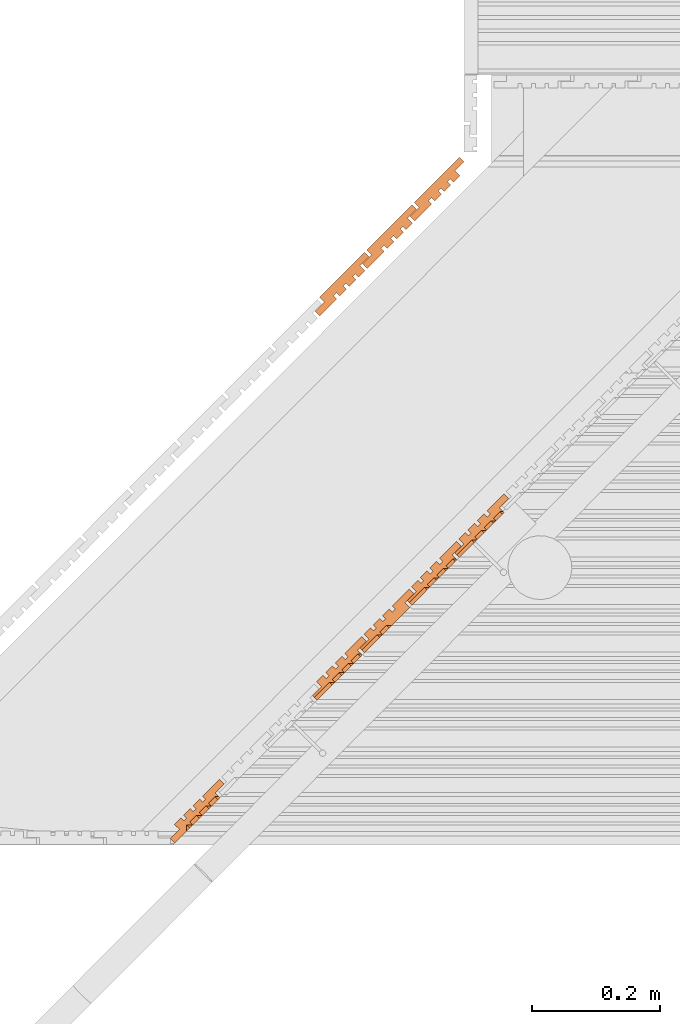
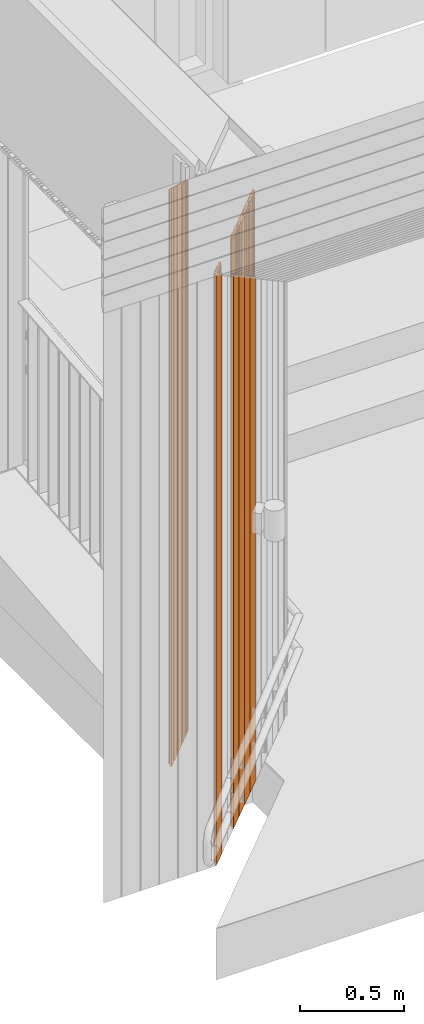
# One storey, part 383 of 418: 8 proxies.
"""IFC2X3 building model written with IfcOpenShell, lengths in millimetres."""

from ifc_helpers import new_model, entity, si_unit, converted_unit, derived_unit, money_unit, direction, frame, origin_with_axes, place, context, subcontext, project, spatial, polyline, outline, extrude, boolean, faceted_brep, material, type_object, element, save


model = new_model("IFC2X3")

# Units and contexts
model_context = context("Model", 3, precision=0.01, world=origin_with_axes(), true_north=direction((0.0, 1.0)))
body_context = subcontext(model_context, "Body", "Model", "MODEL_VIEW")
ifc_project = project(units=[si_unit("LENGTHUNIT", "METRE", prefix="MILLI"), si_unit("AREAUNIT", "SQUARE_METRE"), si_unit("VOLUMEUNIT", "CUBIC_METRE"), converted_unit("PLANEANGLEUNIT", "DEGREE", entity("IfcPlaneAngleMeasure", 0.0174532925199), si_unit("PLANEANGLEUNIT", "RADIAN"), dimensions=[0, 0, 0, 0, 0, 0, 0]), si_unit("SOLIDANGLEUNIT", "STERADIAN"), money_unit("EUR"), converted_unit("TIMEUNIT", "Year", entity("IfcTimeMeasure", 31556926.0), si_unit("TIMEUNIT", "SECOND"), dimensions=[0, 0, 1, 0, 0, 0, 0]), si_unit("MASSUNIT", "GRAM", prefix="KILO"), si_unit("THERMODYNAMICTEMPERATUREUNIT", "DEGREE_CELSIUS"), si_unit("LUMINOUSINTENSITYUNIT", "LUMEN"), si_unit("ENERGYUNIT", "JOULE", prefix="MEGA"), derived_unit("THERMALCONDUCTANCEUNIT", [(si_unit("POWERUNIT", "WATT"), 1), (si_unit("LENGTHUNIT", "METRE"), -1), (si_unit("THERMODYNAMICTEMPERATUREUNIT", "KELVIN"), -1)]), derived_unit("SPECIFICHEATCAPACITYUNIT", [(si_unit("ENERGYUNIT", "JOULE"), 1), (si_unit("MASSUNIT", "GRAM", prefix="KILO"), -1), (si_unit("THERMODYNAMICTEMPERATUREUNIT", "KELVIN"), -1)]), derived_unit("MASSDENSITYUNIT", [(si_unit("MASSUNIT", "GRAM", prefix="KILO"), 1), (si_unit("VOLUMEUNIT", "CUBIC_METRE"), -1)])], contexts=[model_context])

# Site, building, storey
site_placement = place(None, origin_with_axes())
site = spatial("IfcSite", under=ifc_project, at=site_placement, Name="Paldiski mnt 245/1, Tallinn, Harjumaa", CompositionType="COMPLEX")
building_placement = place(site_placement, origin_with_axes())
building = spatial("IfcBuilding", under=site, at=building_placement, Name="RKAS Hoone üldnimetus (kasutust iseloomustav) -> IFC Project Manager -> SOLIBRI", CompositionType="ELEMENT")
storey_placement = place(building_placement, origin_with_axes())
storey = spatial("IfcBuildingStorey", under=building, at=storey_placement, Name="Esimene korrus", CompositionType="ELEMENT", Elevation=0.0)

# Proxies
ifc_material = material(Name="ET-01_Puit - Konstruktsioon")
building_element_proxy_type_1 = type_object("IfcBuildingElementProxyType", Name="ET-01_Puit - Konstruktsioon 4084", PredefinedType="NOTDEFINED")
proxy_1_placement = place(storey_placement, frame((-44646.1705968, -17723.0784552, 4083.99999963), z_axis=(0.0, 0.0, 1.0), x_axis=(1.0, 0.0, 0.0)))
element("IfcBuildingElementProxy", 1, at=proxy_1_placement, inside=storey, type_object=building_element_proxy_type_1, material=ifc_material, Name="Varikatus", context=body_context, shape_type="CSG", body=[
    boolean("DIFFERENCE", extrude(outline(polyline([(0.0, 0.0), (7.42844055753, -7.42079883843), (33.9497391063, 19.1278074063), (28.9974455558, 24.0750082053), (33.4940944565, 28.5762877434), (38.4463881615, 23.6290885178), (49.0045018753, 34.1980741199), (44.0522081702, 39.1452733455), (48.3823797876, 43.4799031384), (53.3346734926, 38.5327039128), (63.8146046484, 49.0234249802), (58.8623110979, 53.9706257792), (62.8488134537, 57.9612321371), (67.8011071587, 53.0140329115), (78.1027224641, 63.3262563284), (70.3205472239, 71.1004278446), (84.455402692, 85.2498392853), (77.3806969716, 92.3172670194), (6.70641506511, 21.5702118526), (14.1348570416, 14.1494112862), (0.0, 0.0)])), frame((0.0, 0.0, -4083.99999963), z_axis=(0.0, 0.0, 1.0), x_axis=(1.0, 0.0, 0.0)), (0.0, 0.0, 1.0), 4083.99999963), faceted_brep([(70.3205472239, 71.1004278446, -851.548595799), (84.455402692, 85.2498392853, -861.718937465), (84.455402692, 85.2498392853, 0.0), (70.3205472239, 71.1004278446, 0.0), (77.3806969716, 92.3172670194, -866.798877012), (78.1027224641, 63.3262563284, -845.960661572), (67.8011071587, 53.0140329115, -838.548421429), (62.8488134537, 57.9612321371, -842.104378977), (58.8623110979, 53.9706257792, -839.236003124), (63.8146046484, 49.0234249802, -835.680044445), (53.3346734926, 38.5327039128, -828.139503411), (48.3823797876, 43.4799031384, -831.695460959), (44.0522081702, 39.1452733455, -828.579807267), (49.0045018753, 34.1980741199, -825.023849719), (38.4463881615, 23.6290885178, -817.42705355), (33.4940944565, 28.5762877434, -820.983011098), (28.9974455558, 24.0750082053, -817.747572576), (33.9497391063, 19.1278074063, -814.191613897), (7.42844055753, -7.42079883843, -795.108954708), (0.0, 0.0, -800.44289103), (14.1348570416, 14.1494112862, -810.613232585), (6.70641506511, 21.5702118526, -815.947170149), (77.3806969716, 92.3172670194, 0.0), (14.1348570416, 14.1494112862, 0.0), (0.0, 0.0, 0.0), (7.42844055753, -7.42079883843, 0.0), (33.9497391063, 19.1278074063, 0.0), (28.9974455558, 24.0750082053, 0.0), (33.4940944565, 28.5762877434, 0.0), (38.4463881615, 23.6290885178, 0.0), (49.0045018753, 34.1980741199, 0.0), (44.0522081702, 39.1452733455, 0.0), (48.3823797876, 43.4799031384, 0.0), (53.3346734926, 38.5327039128, 0.0), (63.8146046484, 49.0234249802, 0.0), (58.8623110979, 53.9706257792, 0.0), (62.8488134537, 57.9612321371, 0.0), (67.8011071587, 53.0140329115, 0.0), (78.1027224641, 63.3262563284, 0.0), (6.70641506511, 21.5702118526, 0.0)], [[[0, 1, 2, 3]], [[4, 1, 0, 5, 6, 7, 8, 9, 10, 11, 12, 13, 14, 15, 16, 17, 18, 19, 20, 21]], [[1, 4, 22, 2]], [[23, 24, 25, 26, 27, 28, 29, 30, 31, 32, 33, 34, 35, 36, 37, 38, 3, 2, 22, 39]], [[5, 0, 3, 38]], [[6, 5, 38, 37]], [[7, 6, 37, 36]], [[8, 7, 36, 35]], [[9, 8, 35, 34]], [[10, 9, 34, 33]], [[11, 10, 33, 32]], [[12, 11, 32, 31]], [[13, 12, 31, 30]], [[14, 13, 30, 29]], [[15, 14, 29, 28]], [[16, 15, 28, 27]], [[17, 16, 27, 26]], [[18, 17, 26, 25]], [[19, 18, 25, 24]], [[20, 19, 24, 23]], [[21, 20, 23, 39]], [[4, 21, 39, 22]]])),
])
proxy_2_placement = place(storey_placement, frame((-44720.378593, -17797.3628634, 4083.99999963), z_axis=(0.0, 0.0, 1.0), x_axis=(1.0, 0.0, 0.0)))
element("IfcBuildingElementProxy", 2, at=proxy_2_placement, inside=storey, type_object=building_element_proxy_type_1, material=ifc_material, Name="Varikatus", context=body_context, shape_type="CSG", body=[
    boolean("DIFFERENCE", extrude(outline(polyline([(0.0, 0.0), (7.42844055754, -7.42079883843), (33.9497391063, 19.1278074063), (28.9974455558, 24.0750082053), (33.4940944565, 28.5762877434), (38.4463881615, 23.6290885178), (49.0045018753, 34.1980741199), (44.0522081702, 39.1452733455), (48.3823797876, 43.4799031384), (53.3346734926, 38.5327039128), (63.8146046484, 49.0234249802), (58.8623110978, 53.9706257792), (62.8488134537, 57.9612321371), (67.8011071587, 53.0140329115), (78.1027224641, 63.3262563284), (70.3205472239, 71.1004278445), (84.455402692, 85.2498392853), (77.3806969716, 92.3172670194), (6.70641506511, 21.5702118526), (14.1348570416, 14.1494112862), (0.0, 0.0)])), frame((0.0, 0.0, -4083.99999963), z_axis=(0.0, 0.0, 1.0), x_axis=(1.0, 0.0, 0.0)), (0.0, 0.0, 1.0), 4083.99999963), faceted_brep([(70.3205472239, 71.1004278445, -798.154303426), (84.455402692, 85.2498392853, -808.324645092), (84.455402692, 85.2498392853, 0.0), (70.3205472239, 71.1004278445, 0.0), (77.3806969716, 92.3172670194, -813.404584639), (78.1027224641, 63.3262563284, -792.566369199), (67.8011071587, 53.0140329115, -785.154129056), (62.8488134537, 57.9612321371, -788.710086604), (58.8623110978, 53.9706257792, -785.841710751), (63.8146046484, 49.0234249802, -782.285752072), (53.3346734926, 38.5327039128, -774.745211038), (48.3823797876, 43.4799031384, -778.301168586), (44.0522081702, 39.1452733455, -775.185514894), (49.0045018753, 34.1980741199, -771.629557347), (38.4463881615, 23.6290885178, -764.032761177), (33.4940944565, 28.5762877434, -767.588718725), (28.9974455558, 24.0750082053, -764.353280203), (33.9497391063, 19.1278074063, -760.797321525), (7.42844055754, -7.42079883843, -741.714662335), (0.0, 0.0, -747.048598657), (14.1348570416, 14.1494112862, -757.218940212), (6.70641506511, 21.5702118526, -762.552877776), (77.3806969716, 92.3172670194, 0.0), (14.1348570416, 14.1494112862, 0.0), (0.0, 0.0, 0.0), (7.42844055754, -7.42079883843, 0.0), (33.9497391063, 19.1278074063, 0.0), (28.9974455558, 24.0750082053, 0.0), (33.4940944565, 28.5762877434, 0.0), (38.4463881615, 23.6290885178, 0.0), (49.0045018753, 34.1980741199, 0.0), (44.0522081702, 39.1452733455, 0.0), (48.3823797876, 43.4799031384, 0.0), (53.3346734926, 38.5327039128, 0.0), (63.8146046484, 49.0234249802, 0.0), (58.8623110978, 53.9706257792, 0.0), (62.8488134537, 57.9612321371, 0.0), (67.8011071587, 53.0140329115, 0.0), (78.1027224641, 63.3262563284, 0.0), (6.70641506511, 21.5702118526, 0.0)], [[[0, 1, 2, 3]], [[4, 1, 0, 5, 6, 7, 8, 9, 10, 11, 12, 13, 14, 15, 16, 17, 18, 19, 20, 21]], [[1, 4, 22, 2]], [[23, 24, 25, 26, 27, 28, 29, 30, 31, 32, 33, 34, 35, 36, 37, 38, 3, 2, 22, 39]], [[5, 0, 3, 38]], [[6, 5, 38, 37]], [[7, 6, 37, 36]], [[8, 7, 36, 35]], [[9, 8, 35, 34]], [[10, 9, 34, 33]], [[11, 10, 33, 32]], [[12, 11, 32, 31]], [[13, 12, 31, 30]], [[14, 13, 30, 29]], [[15, 14, 29, 28]], [[16, 15, 28, 27]], [[17, 16, 27, 26]], [[18, 17, 26, 25]], [[19, 18, 25, 24]], [[20, 19, 24, 23]], [[21, 20, 23, 39]], [[4, 21, 39, 22]]])),
])
proxy_3_placement = place(storey_placement, frame((-44794.5865893, -17871.6472715, 4083.99999963), z_axis=(0.0, 0.0, 1.0), x_axis=(1.0, 0.0, 0.0)))
element("IfcBuildingElementProxy", 3, at=proxy_3_placement, inside=storey, type_object=building_element_proxy_type_1, material=ifc_material, Name="Varikatus", context=body_context, shape_type="CSG", body=[
    boolean("DIFFERENCE", extrude(outline(polyline([(0.0, 0.0), (7.42844055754, -7.42079883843), (33.9497391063, 19.1278074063), (28.9974455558, 24.0750082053), (33.4940944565, 28.5762877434), (38.4463881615, 23.6290885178), (49.0045018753, 34.1980741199), (44.0522081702, 39.1452733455), (48.3823797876, 43.4799031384), (53.3346734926, 38.5327039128), (63.8146046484, 49.0234249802), (58.8623110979, 53.9706257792), (62.8488134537, 57.9612321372), (67.8011071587, 53.0140329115), (78.1027224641, 63.3262563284), (70.3205472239, 71.1004278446), (84.455402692, 85.2498392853), (77.3806969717, 92.3172670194), (6.70641506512, 21.5702118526), (14.1348570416, 14.1494112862), (0.0, 0.0)])), frame((0.0, 0.0, -4083.99999963), z_axis=(0.0, 0.0, 1.0), x_axis=(1.0, 0.0, 0.0)), (0.0, 0.0, 1.0), 4083.99999963), faceted_brep([(70.3205472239, 71.1004278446, -744.760011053), (84.455402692, 85.2498392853, -754.930352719), (84.455402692, 85.2498392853, 0.0), (70.3205472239, 71.1004278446, 0.0), (77.3806969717, 92.3172670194, -760.010292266), (78.1027224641, 63.3262563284, -739.172076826), (67.8011071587, 53.0140329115, -731.759836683), (62.8488134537, 57.9612321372, -735.315794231), (58.8623110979, 53.9706257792, -732.447418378), (63.8146046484, 49.0234249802, -728.891459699), (53.3346734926, 38.5327039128, -721.350918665), (48.3823797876, 43.4799031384, -724.906876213), (44.0522081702, 39.1452733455, -721.791222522), (49.0045018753, 34.1980741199, -718.235264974), (38.4463881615, 23.6290885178, -710.638468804), (33.4940944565, 28.5762877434, -714.194426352), (28.9974455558, 24.0750082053, -710.958987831), (33.9497391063, 19.1278074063, -707.403029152), (7.42844055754, -7.42079883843, -688.320369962), (0.0, 0.0, -693.654306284), (14.1348570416, 14.1494112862, -703.824647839), (6.70641506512, 21.5702118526, -709.158585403), (77.3806969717, 92.3172670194, 0.0), (14.1348570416, 14.1494112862, 0.0), (0.0, 0.0, 0.0), (7.42844055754, -7.42079883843, 0.0), (33.9497391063, 19.1278074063, 0.0), (28.9974455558, 24.0750082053, 0.0), (33.4940944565, 28.5762877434, 0.0), (38.4463881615, 23.6290885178, 0.0), (49.0045018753, 34.1980741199, 0.0), (44.0522081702, 39.1452733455, 0.0), (48.3823797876, 43.4799031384, 0.0), (53.3346734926, 38.5327039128, 0.0), (63.8146046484, 49.0234249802, 0.0), (58.8623110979, 53.9706257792, 0.0), (62.8488134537, 57.9612321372, 0.0), (67.8011071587, 53.0140329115, 0.0), (78.1027224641, 63.3262563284, 0.0), (6.70641506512, 21.5702118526, 0.0)], [[[0, 1, 2, 3]], [[4, 1, 0, 5, 6, 7, 8, 9, 10, 11, 12, 13, 14, 15, 16, 17, 18, 19, 20, 21]], [[1, 4, 22, 2]], [[23, 24, 25, 26, 27, 28, 29, 30, 31, 32, 33, 34, 35, 36, 37, 38, 3, 2, 22, 39]], [[5, 0, 3, 38]], [[6, 5, 38, 37]], [[7, 6, 37, 36]], [[8, 7, 36, 35]], [[9, 8, 35, 34]], [[10, 9, 34, 33]], [[11, 10, 33, 32]], [[12, 11, 32, 31]], [[13, 12, 31, 30]], [[14, 13, 30, 29]], [[15, 14, 29, 28]], [[16, 15, 28, 27]], [[17, 16, 27, 26]], [[18, 17, 26, 25]], [[19, 18, 25, 24]], [[20, 19, 24, 23]], [[21, 20, 23, 39]], [[4, 21, 39, 22]]])),
])
building_element_proxy_type_2 = type_object("IfcBuildingElementProxyType", Name="ET-01_Puit - Konstruktsioon 3460", PredefinedType="NOTDEFINED")
proxy_4_placement = place(storey_placement, frame((-44714.3058968, -18387.8765225, 3459.91760543), z_axis=(0.0, 0.0, 1.0), x_axis=(1.0, 0.0, 0.0)))
element("IfcBuildingElementProxy", 4, at=proxy_4_placement, inside=storey, type_object=building_element_proxy_type_2, material=ifc_material, Name="Varikatus", context=body_context, shape_type="CSG", body=[
    boolean("DIFFERENCE", boolean("DIFFERENCE", boolean("DIFFERENCE", extrude(outline(polyline([(0.0, 0.0), (-7.43421773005, 7.41501121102), (-33.9348317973, -19.1542421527), (-28.9786867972, -24.0975845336), (-33.4718286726, -28.6023647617), (-38.427973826, -23.6590239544), (-48.977853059, -34.2362291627), (-44.0217079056, -39.17956997), (-48.3485023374, -43.5175708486), (-53.3046474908, -38.5742300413), (-63.776405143, -49.0731098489), (-58.8202601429, -54.0164522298), (-62.8036533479, -58.0101621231), (-67.7597985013, -53.0668213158), (-78.0533793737, -63.3870646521), (-70.2651518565, -71.15517294), (-84.3889832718, -85.3155885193), (-77.3087754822, -92.3775042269), (-6.68961383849, -21.5754283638), (-14.1238329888, -14.160415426), (0.0, 0.0)])), frame((0.0, 0.0, -3459.91760543), z_axis=(0.0, 0.0, 1.0), x_axis=(1.0, 0.0, 0.0)), (0.0, 0.0, 1.0), 3459.91760543), faceted_brep([(-53.5551552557, -68.5623596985, -227.687314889), (-49.3759371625, -64.3723170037, -223.49727102), (-49.3759384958, -64.3723170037, 0.0), (-77.3087754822, -92.3775042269, 0.0), (-77.3087754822, -92.3775042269, -203.933694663), (-57.7451998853, -64.3723170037, -223.49727102), (-57.7451998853, -64.3723170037, 0.0), (-81.5350379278, -88.1621605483, 0.0), (-81.5350379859, -88.1621606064, -199.707432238)], [[[0, 1, 2, 3, 4]], [[1, 0, 5]], [[6, 2, 1, 5]], [[6, 7, 3, 2]], [[8, 4, 3, 7]], [[0, 4, 8, 5]], [[7, 6, 5, 8]]])), faceted_brep([(-38.5121207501, -53.4803621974, -242.730349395), (-34.3523327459, -49.3097999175, -238.559786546), (-34.3523347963, -49.3097999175, 0.0), (-49.0620098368, -64.0575752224, 0.0), (-49.0620091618, -64.0575758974, -232.180460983), (-42.6826834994, -49.3097999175, -238.559786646), (-42.6826834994, -49.3097999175, 0.0), (-53.2462336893, -59.8733518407, 0.0), (-53.2462336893, -59.8733518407, -227.996236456)], [[[0, 1, 2, 3, 4]], [[1, 0, 5]], [[6, 2, 1, 5]], [[7, 3, 2, 6]], [[4, 3, 7, 8]], [[0, 4, 8, 5]], [[7, 6, 5, 8]]])), faceted_brep([(-19.7301598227, -34.6497540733, -261.512310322), (-9.43656932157, -24.3295021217, -271.805900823), (-6.68961383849, -21.5754283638, -269.051825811), (-6.68961383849, -21.5754283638, 0.0), (-34.1853239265, -49.1423564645, 0.0), (-34.185322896, -49.142357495, -247.057147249), (-23.7135561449, -38.6434677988, -257.528914), (-19.7301600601, -34.6497538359, -253.535198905), (-23.8764013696, -30.503512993, -257.366068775), (-13.5694813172, -20.1965915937, -267.672989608), (-8.07202210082, -20.1965915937, -267.672989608), (-8.07202204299, -20.1965915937, 0.0), (-38.3502829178, -44.9773979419, 0.0), (-13.5694813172, -20.1965915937, 0.0), (-23.8764013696, -30.503512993, 0.0), (-19.8878450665, -34.4920688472, 0.0), (-27.8649570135, -34.4920688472, 0.0), (-38.3502829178, -44.9773979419, -242.892187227), (-27.8649570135, -34.4920688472, -253.377513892), (-19.8878450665, -34.4920688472, -253.377513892)], [[[0, 1, 2, 3, 4, 5, 6, 7]], [[1, 0, 8, 9]], [[10, 2, 1, 9]], [[10, 11, 3, 2]], [[12, 4, 3, 11, 13, 14, 15, 16]], [[5, 4, 12, 17]], [[6, 5, 17, 18]], [[7, 6, 18, 19]], [[0, 7, 19, 15, 14, 8]], [[14, 13, 9, 8]], [[13, 11, 10, 9]], [[16, 15, 19, 18]], [[12, 16, 18, 17]]])),
])
proxy_5_placement = place(storey_placement, frame((-44640.1557775, -18313.5343419, 3459.91760543), z_axis=(0.0, 0.0, 1.0), x_axis=(1.0, 0.0, 0.0)))
element("IfcBuildingElementProxy", 5, at=proxy_5_placement, inside=storey, type_object=building_element_proxy_type_2, material=ifc_material, Name="Varikatus", context=body_context, shape_type="CSG", body=[
    boolean("DIFFERENCE", boolean("DIFFERENCE", boolean("DIFFERENCE", extrude(outline(polyline([(0.0, 0.0), (-7.43421773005, 7.41501121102), (-33.9348317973, -19.1542421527), (-28.9786867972, -24.0975845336), (-33.4718286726, -28.6023647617), (-38.427973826, -23.6590239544), (-48.977853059, -34.2362291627), (-44.0217079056, -39.17956997), (-48.3485023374, -43.5175708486), (-53.3046474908, -38.5742300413), (-63.7764051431, -49.0731098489), (-58.820260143, -54.0164522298), (-62.8036533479, -58.0101621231), (-67.7597985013, -53.0668213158), (-78.0533793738, -63.3870646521), (-70.2651518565, -71.15517294), (-84.3889832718, -85.3155885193), (-77.3087754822, -92.3775042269), (-6.6896138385, -21.5754283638), (-14.1238329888, -14.160415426), (0.0, 0.0)])), frame((0.0, 0.0, -3459.91760543), z_axis=(0.0, 0.0, 1.0), x_axis=(1.0, 0.0, 0.0)), (0.0, 0.0, 1.0), 3459.91760543), faceted_brep([(-53.5550932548, -68.562297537, -301.837496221), (-49.4716510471, -64.4682787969, -297.743476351), (-49.4716523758, -64.4682787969, 0.0), (-77.3087754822, -92.3775042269, 0.0), (-77.3087754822, -92.3775042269, -278.083813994), (-57.6491138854, -64.4682787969, -297.743476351), (-57.6491138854, -64.4682787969, 0.0), (-81.4388898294, -88.2580602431, 0.0), (-81.4388898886, -88.2580603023, -273.953699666)], [[[0, 1, 2, 3, 4]], [[1, 0, 5]], [[6, 2, 1, 5]], [[6, 7, 3, 2]], [[8, 4, 3, 7]], [[0, 4, 8, 5]], [[7, 6, 5, 8]]])), faceted_brep([(-38.5120587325, -53.4803000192, -316.880530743), (-34.4480466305, -49.4057617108, -312.805991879), (-34.4480486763, -49.4057617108, 0.0), (-49.0619478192, -64.0575130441, 0.0), (-49.0619471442, -64.0575137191, -306.330642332), (-42.5865974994, -49.4057617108, -312.805991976), (-42.5865974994, -49.4057617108, 0.0), (-53.1501476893, -59.969313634, 0.0), (-53.1501476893, -59.969313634, -302.242441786)], [[[0, 1, 2, 3, 4]], [[1, 0, 5]], [[6, 2, 1, 5]], [[7, 3, 2, 6]], [[4, 3, 7, 8]], [[0, 4, 8, 5]], [[7, 6, 5, 8]]])), faceted_brep([(-19.7300978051, -34.649691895, -335.662491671), (-9.43650731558, -24.329439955, -345.95608216), (-6.6896138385, -21.5754283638, -343.202069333), (-6.6896138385, -21.5754283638, 0.0), (-34.1852619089, -49.1422942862, 0.0), (-34.1852608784, -49.1422953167, -321.207328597), (-23.7134941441, -38.6434056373, -331.679095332), (-19.7300980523, -34.6496916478, -327.68538024), (-19.7917590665, -34.5880306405, -335.600830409), (-23.7803153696, -30.5994747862, -331.612274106), (-13.4733953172, -20.2925533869, -341.919194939), (-7.97581174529, -20.2925533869, -341.919194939), (-7.97581169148, -20.2925533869, 0.0), (-38.2541969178, -45.0733597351, 0.0), (-13.4733953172, -20.2925533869, 0.0), (-23.7803153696, -30.5994747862, 0.0), (-19.7917590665, -34.5880306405, 0.0), (-27.7688710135, -34.5880306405, 0.0), (-38.2541969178, -45.0733597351, -317.138392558), (-27.7688710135, -34.5880306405, -327.623719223), (-19.7917590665, -34.5880306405, -327.623719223)], [[[0, 1, 2, 3, 4, 5, 6, 7]], [[1, 0, 8, 9, 10]], [[11, 2, 1, 10]], [[11, 12, 3, 2]], [[13, 4, 3, 12, 14, 15, 16, 17]], [[5, 4, 13, 18]], [[6, 5, 18, 19]], [[7, 6, 19, 20]], [[0, 7, 20, 8]], [[16, 15, 9, 8, 20]], [[15, 14, 10, 9]], [[14, 12, 11, 10]], [[17, 16, 20, 19]], [[13, 17, 19, 18]]])),
])
proxy_6_placement = place(storey_placement, frame((-44566.0056581, -18239.1921614, 3459.91760543), z_axis=(0.0, 0.0, 1.0), x_axis=(1.0, 0.0, 0.0)))
element("IfcBuildingElementProxy", 6, at=proxy_6_placement, inside=storey, type_object=building_element_proxy_type_2, material=ifc_material, Name="Varikatus", context=body_context, shape_type="CSG", body=[
    boolean("DIFFERENCE", boolean("DIFFERENCE", boolean("DIFFERENCE", boolean("DIFFERENCE", extrude(outline(polyline([(0.0, 0.0), (-7.43421773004, 7.41501121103), (-33.9348317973, -19.1542421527), (-28.9786867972, -24.0975845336), (-33.4718286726, -28.6023647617), (-38.427973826, -23.6590239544), (-48.977853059, -34.2362291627), (-44.0217079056, -39.17956997), (-48.3485023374, -43.5175708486), (-53.3046474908, -38.5742300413), (-63.7764051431, -49.0731098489), (-58.8202601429, -54.0164522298), (-62.8036533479, -58.0101621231), (-67.7597985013, -53.0668213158), (-78.0533793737, -63.3870646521), (-70.2651518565, -71.15517294), (-84.3889832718, -85.3155885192), (-77.3087754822, -92.3775042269), (-6.68961383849, -21.5754283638), (-14.1238329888, -14.160415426), (0.0, 0.0)])), frame((0.0, 0.0, -3459.91760543), z_axis=(0.0, 0.0, 1.0), x_axis=(1.0, 0.0, 0.0)), (0.0, 0.0, 1.0), 3459.91760543), faceted_brep([(-53.5550312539, -68.5622353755, -375.987677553), (-49.5673649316, -64.5642405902, -371.989681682), (-49.5673662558, -64.5642405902, 0.0), (-77.3087754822, -92.3775042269, 0.0), (-77.3087754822, -92.3775042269, -352.233933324), (-57.5530278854, -64.5642405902, -371.989681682), (-57.5530278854, -64.5642405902, 0.0), (-81.342741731, -88.353959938, 0.0), (-81.3427417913, -88.3539599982, -348.199967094)], [[[0, 1, 2, 3, 4]], [[1, 0, 5]], [[6, 2, 1, 5]], [[6, 7, 3, 2]], [[8, 4, 3, 7]], [[0, 4, 8, 5]], [[7, 6, 5, 8]]])), faceted_brep([(-38.5119967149, -53.4802378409, -391.030712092), (-34.543760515, -49.501723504, -387.052197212), (-34.5437625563, -49.501723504, 0.0), (-49.0618858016, -64.0574508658, 0.0), (-49.0618851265, -64.0574515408, -380.48082368), (-42.4905114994, -49.501723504, -387.052197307), (-42.4905114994, -49.501723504, 0.0), (-53.0540616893, -60.0652754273, 0.0), (-53.0540616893, -60.0652754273, -376.488647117)], [[[0, 1, 2, 3, 4]], [[1, 0, 5]], [[6, 2, 1, 5]], [[7, 3, 2, 6]], [[4, 3, 7, 8]], [[0, 4, 8, 5]], [[7, 6, 5, 8]]])), faceted_brep([(-23.7134321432, -38.6433434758, -405.829276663), (-19.7643097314, -34.6839924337, -401.869924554), (-19.7643124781, -34.6839924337, 0.0), (-34.1851998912, -49.1422321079, 0.0), (-34.1851988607, -49.1422331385, -395.357509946), (-27.6727850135, -34.6839924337, -401.869924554), (-27.6727850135, -34.6839924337, 0.0), (-38.1581109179, -45.1693215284, 0.0), (-38.1581109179, -45.1693215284, -391.384597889)], [[[0, 1, 2, 3, 4]], [[1, 0, 5]], [[6, 2, 1, 5]], [[7, 3, 2, 6]], [[4, 3, 7, 8]], [[0, 4, 8, 5]], [[7, 6, 5, 8]]])), faceted_brep([(-19.7300357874, -34.6496297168, -409.812673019), (-9.43644530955, -24.3293777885, -420.106263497), (-6.68961383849, -21.5754283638, -417.352312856), (-6.68961383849, -21.5754283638, 0.0), (-19.7300371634, -34.6496283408, 0.0), (-23.6842293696, -30.6954365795, -405.858479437), (-13.3773093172, -20.3885151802, -416.16540027), (-7.87960138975, -20.3885151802, -416.16540027), (-7.87960133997, -20.3885151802, 0.0), (-23.6842293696, -30.6954365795, 0.0), (-13.3773093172, -20.3885151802, 0.0)], [[[0, 1, 2, 3, 4]], [[1, 0, 5, 6]], [[7, 2, 1, 6]], [[7, 8, 3, 2]], [[9, 4, 3, 8, 10]], [[0, 4, 9, 5]], [[9, 10, 6, 5]], [[10, 8, 7, 6]]])),
])
proxy_7_placement = place(storey_placement, frame((-44491.8555388, -18164.8499809, 3459.91760543), z_axis=(0.0, 0.0, 1.0), x_axis=(1.0, 0.0, 0.0)))
element("IfcBuildingElementProxy", 7, at=proxy_7_placement, inside=storey, type_object=building_element_proxy_type_2, material=ifc_material, Name="Varikatus", context=body_context, shape_type="CSG", body=[
    boolean("DIFFERENCE", boolean("DIFFERENCE", boolean("DIFFERENCE", boolean("DIFFERENCE", extrude(outline(polyline([(0.0, 0.0), (-7.43421773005, 7.41501121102), (-33.9348317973, -19.1542421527), (-28.9786867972, -24.0975845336), (-33.4718286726, -28.6023647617), (-38.427973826, -23.6590239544), (-48.977853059, -34.2362291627), (-44.0217079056, -39.17956997), (-48.3485023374, -43.5175708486), (-53.3046474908, -38.5742300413), (-63.7764051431, -49.0731098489), (-58.8202601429, -54.0164522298), (-62.8036533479, -58.0101621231), (-67.7597985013, -53.0668213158), (-78.0533793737, -63.3870646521), (-70.2651518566, -71.15517294), (-84.3889832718, -85.3155885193), (-77.3087754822, -92.3775042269), (-6.68961383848, -21.5754283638), (-14.1238329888, -14.160415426), (0.0, 0.0)])), frame((0.0, 0.0, -3459.91760543), z_axis=(0.0, 0.0, 1.0), x_axis=(1.0, 0.0, 0.0)), (0.0, 0.0, 1.0), 3459.91760543), faceted_brep([(-53.554969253, -68.5621732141, -450.137858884), (-49.6630788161, -64.6602023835, -446.235887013), (-49.6630801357, -64.6602023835, 0.0), (-77.3087754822, -92.3775042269, 0.0), (-77.3087754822, -92.3775042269, -426.384052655), (-57.4569418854, -64.6602023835, -446.235887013), (-57.4569418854, -64.6602023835, 0.0), (-81.2465936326, -88.4498596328, 0.0), (-81.2465936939, -88.4498596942, -422.446234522)], [[[0, 1, 2, 3, 4]], [[1, 0, 5]], [[6, 2, 1, 5]], [[6, 7, 3, 2]], [[8, 4, 3, 7]], [[0, 4, 8, 5]], [[7, 6, 5, 8]]])), faceted_brep([(-38.5119346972, -53.4801756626, -465.18089344), (-34.6394743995, -49.5976852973, -461.298402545), (-34.6394764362, -49.5976852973, 0.0), (-49.0618237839, -64.0573886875, 0.0), (-49.0618231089, -64.0573893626, -454.631005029), (-42.3944254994, -49.5976852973, -461.298402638), (-42.3944254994, -49.5976852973, 0.0), (-52.9579756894, -60.1612372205, 0.0), (-52.9579756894, -60.1612372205, -450.734852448)], [[[0, 1, 2, 3, 4]], [[1, 0, 5]], [[6, 2, 1, 5]], [[7, 3, 2, 6]], [[4, 3, 7, 8]], [[0, 4, 8, 5]], [[7, 6, 5, 8]]])), faceted_brep([(-23.7133701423, -38.6432813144, -479.979457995), (-19.8600236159, -34.779954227, -476.116129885), (-19.8600263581, -34.779954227, 0.0), (-34.1851378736, -49.1421699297, 0.0), (-34.1851368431, -49.1421709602, -469.507691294), (-27.5766990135, -34.779954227, -476.116129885), (-27.5766990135, -34.779954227, 0.0), (-38.0620249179, -45.2652833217, 0.0), (-38.0620249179, -45.2652833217, -465.63080322)], [[[0, 1, 2, 3, 4]], [[1, 0, 5]], [[6, 2, 1, 5]], [[7, 3, 2, 6]], [[4, 3, 7, 8]], [[0, 4, 8, 5]], [[7, 6, 5, 8]]])), faceted_brep([(-19.7299737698, -34.6495675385, -483.962854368), (-9.43638330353, -24.3293156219, -494.256444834), (-6.68961383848, -21.5754283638, -491.502556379), (-6.68961383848, -21.5754283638, 0.0), (-19.7299751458, -34.6495661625, 0.0), (-23.5881433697, -30.7913983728, -480.104684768), (-13.2812233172, -20.4844769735, -490.411605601), (-7.7833910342, -20.4844769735, -490.411605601), (-7.78339098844, -20.4844769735, 0.0), (-23.5881433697, -30.7913983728, 0.0), (-13.2812233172, -20.4844769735, 0.0)], [[[0, 1, 2, 3, 4]], [[1, 0, 5, 6]], [[7, 2, 1, 6]], [[7, 8, 3, 2]], [[9, 4, 3, 8, 10]], [[0, 4, 9, 5]], [[9, 10, 6, 5]], [[10, 8, 7, 6]]])),
])
proxy_8_placement = place(storey_placement, frame((-44936.7562548, -18610.903064, 3459.91760543), z_axis=(0.0, 0.0, 1.0), x_axis=(1.0, 0.0, 0.0)))
element("IfcBuildingElementProxy", 8, at=proxy_8_placement, inside=storey, type_object=building_element_proxy_type_2, material=ifc_material, Name="Varikatus", context=body_context, shape_type="CSG", body=[
    boolean("DIFFERENCE", boolean("DIFFERENCE", boolean("DIFFERENCE", extrude(outline(polyline([(0.0, 0.0), (-7.43421773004, 7.41501121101), (-33.9348317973, -19.1542421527), (-28.9786867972, -24.0975845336), (-33.4718286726, -28.6023647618), (-38.427973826, -23.6590239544), (-48.977853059, -34.2362291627), (-44.0217079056, -39.1795699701), (-48.3485023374, -43.5175708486), (-53.3046474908, -38.5742300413), (-63.7764051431, -49.073109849), (-58.820260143, -54.0164522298), (-62.8036533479, -58.0101621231), (-67.7597985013, -53.0668213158), (-78.0533793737, -63.3870646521), (-70.2651518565, -71.15517294), (-84.3889832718, -85.3155885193), (-77.3087754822, -92.3775042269), (-6.68961383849, -21.5754283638), (-14.1238329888, -14.160415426), (0.0, 0.0)])), frame((0.0, 0.0, -3459.91760543), z_axis=(0.0, 0.0, 1.0), x_axis=(1.0, 0.0, 0.0)), (0.0, 0.0, 1.0), 3459.91760543), faceted_brep([(-83.7345299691, -85.9683510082, 0.0), (-83.7345299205, -84.6594399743, 0.0), (-84.3889832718, -85.3155885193, 0.0), (-83.7345299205, -84.6594399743, -3459.91760543), (-83.7345299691, -85.9683510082, -3459.91760543), (-84.3889832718, -85.3155885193, -3459.91760543)], [[[0, 1, 2]], [[3, 1, 0, 4]], [[1, 3, 5, 2]], [[4, 0, 2, 5]], [[3, 4, 5]]])), faceted_brep([(-53.8610411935, -68.8690379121, -4.9310709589), (-49.3941008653, -64.3905277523, -0.452559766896), (-49.3941021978, -64.3905277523, 0.0), (-58.7921121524, -73.8128799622, 0.0), (-58.3395536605, -64.3905277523, -0.452559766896), (-58.3395536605, -64.3905277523, 0.0), (-58.7921125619, -64.8430867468, -8.18924483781e-07)], [[[0, 1, 2, 3]], [[1, 0, 4]], [[5, 2, 1, 4]], [[6, 3, 2, 5]], [[0, 3, 6, 4]], [[6, 5, 4]]])), faceted_brep([(-20.0360461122, -34.9564326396, -38.7560660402), (-9.74245558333, -24.6361806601, -49.0496565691), (-6.68961383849, -21.5754283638, -45.9889035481), (-6.68961383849, -21.5754283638, 0.0), (-49.3678961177, -64.3642537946, 0.0), (-49.36789545, -64.3642544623, -9.42421670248), (-38.8180070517, -53.7870407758, -19.9741051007), (-34.4912090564, -49.4490359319, -15.6361002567), (-34.4912090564, -49.4490359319, -24.300903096), (-24.0194424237, -38.9501463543, -34.7726697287), (-20.0360462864, -34.9564324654, -30.7789553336), (-24.4707548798, -30.5217238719, -34.3213572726), (-14.163835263, -20.2148017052, -44.6282775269), (-8.05376482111, -20.2148017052, -44.6282775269), (-8.05376476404, -20.2148017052, 0.0), (-53.8405872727, -59.8915626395, 0.0), (-14.163835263, -20.2148017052, 0.0), (-24.4707548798, -30.5217238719, 0.0), (-20.4821992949, -34.5102794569, 0.0), (-28.4593104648, -34.5102794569, 0.0), (-38.9446367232, -44.9956082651, 0.0), (-34.6122340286, -49.3280109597, 0.0), (-43.2770368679, -49.3280109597, 0.0), (-53.8405872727, -59.8915626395, -4.95152487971), (-43.2770368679, -49.3280109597, -15.5150752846), (-34.6122340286, -49.3280109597, -15.5150752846), (-38.9446367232, -44.9956082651, -19.8474754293), (-28.4593104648, -34.5102794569, -30.3328023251), (-20.4821992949, -34.5102794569, -30.3328023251)], [[[0, 1, 2, 3, 4, 5, 6, 7, 8, 9, 10]], [[1, 0, 11, 12]], [[13, 2, 1, 12]], [[13, 14, 3, 2]], [[15, 4, 3, 14, 16, 17, 18, 19, 20, 21, 22]], [[5, 4, 15, 23]], [[6, 5, 23, 24]], [[7, 6, 24, 25]], [[8, 7, 25, 21, 20, 26]], [[9, 8, 26, 27]], [[10, 9, 27, 28]], [[0, 10, 28, 18, 17, 11]], [[17, 16, 12, 11]], [[16, 14, 13, 12]], [[19, 18, 28, 27]], [[20, 19, 27, 26]], [[22, 21, 25, 24]], [[15, 22, 24, 23]]])),
])

save(model, "model.ifc")
